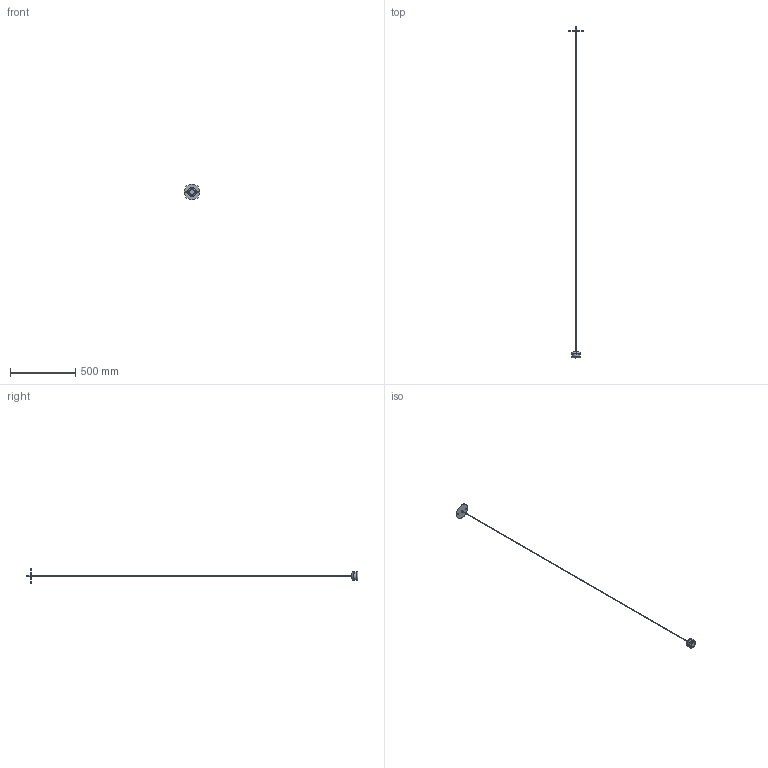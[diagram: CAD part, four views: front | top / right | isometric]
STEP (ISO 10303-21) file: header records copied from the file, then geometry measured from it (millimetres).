
FILE_DESCRIPTION (( 'STEP AP203' ), '1' );
FILE_NAME ('USURBMIPXXXXLCC-Rev 01-PER 3D.STEP', '2026-07-07T16:28:41', ( '' ), ( '' ), 'SwSTEP 2.0', 'SolidWorks 2026', '' );
FILE_SCHEMA (( 'CONFIG_CONTROL_DESIGN' ));
Length unit declared in the file: millimetre
Products named in the file (12): USURBMIPXXXXLCC-PENDENTE USA-Rev 01; URBAN MINI-SP1-02-V2; TAPPO COPRIVITE ADESIVO BIANCO RAL 9016 RAGGRIZZATO OPACO; WSASS-000000038-00; URBAN MINI-PL1-02-V1; CAVO ELETTRICO+RIV TESSUTO; USURBMIPXXXXLCC-Rev 01-PER 3D; URBAN MINI-PL1-08-V1; WSCM2C0051-0100-01; WSCM2A0032-0700-00; URBAN MINI-PL1-06-V3; URBAN MINI-SP1-01-V3
Assembly tree (12 placements, depth 3):
  USURBMIPXXXXLCC-Rev 01-PER 3D
    USURBMIPXXXXLCC-PENDENTE USA-Rev 01
      URBAN MINI-SP1-01-V3
      URBAN MINI-SP1-02-V2
      URBAN MINI-PL1-06-V3
      URBAN MINI-PL1-02-V1
      URBAN MINI-PL1-08-V1
      CAVO ELETTRICO+RIV TESSUTO
    WSASS-000000038-00
      WSCM2C0051-0100-01
      WSCM2A0032-0700-00
      TAPPO COPRIVITE ADESIVO BIANCO RAL 9016 RAGGRIZZATO OPACO  x2
Bounding box: 120 x 2537 x 120 mm (x, y, z)
Volume: 160155.4 mm3; surface area: 114166.7 mm2
Topology: 10 solids, 10 shells, 216 faces, 458 edges, 268 vertices
Faces by surface type: cone 82, cylinder 75, plane 32, torus 27
Entity records: 7124 total; most frequent: DIRECTION 1174, CARTESIAN_POINT 1016, ORIENTED_EDGE 896, AXIS2_PLACEMENT_3D 510, EDGE_CURVE 448, CIRCLE 281, VERTEX_POINT 264, EDGE_LOOP 246
